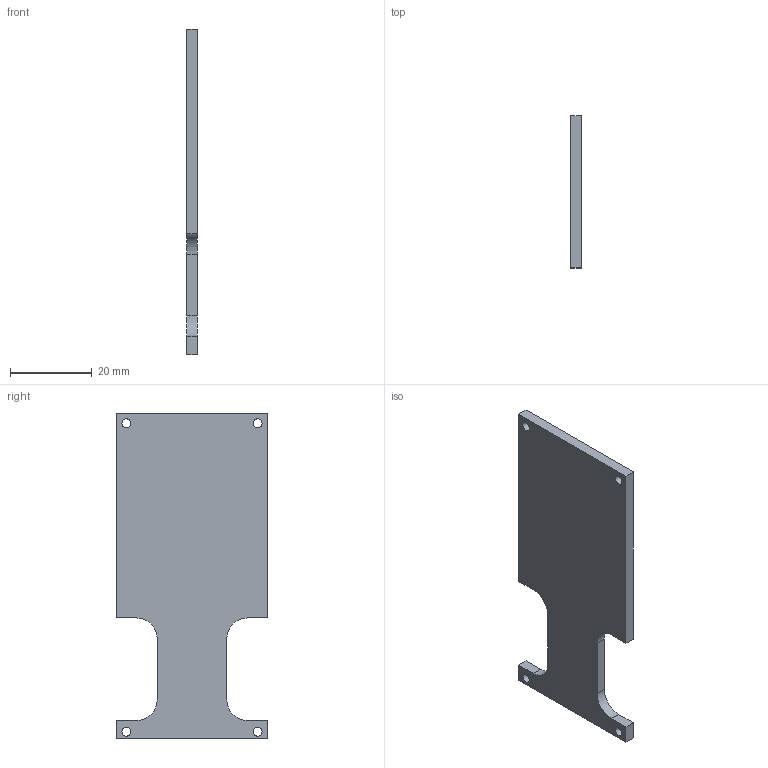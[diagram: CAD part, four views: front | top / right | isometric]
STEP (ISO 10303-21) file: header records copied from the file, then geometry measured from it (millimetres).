
FILE_DESCRIPTION(/* description */ ('STEP AP242','CAx-IF Rec.Pracs.---Representation and Presentation of Product Manufacturing Information (PMI)---4.0---2014-10-13','CAx-IF Rec.Pracs.---3D Tessellated Geometry---0.4---2014-09-14','2;1'),/* implementation_level */ '2;1');
FILE_NAME(/* name */ '6869df15e1723828ff5576de',/* time_stamp */ '2025-07-06T02:27:33Z',/* author */ (''),/* organization */ (''),/* preprocessor_version */ 'ST-DEVELOPER v20',/* originating_system */ 'ONSHAPE BY PTC INC, 1.200',/* authorisation */ ' ');
FILE_SCHEMA (('AP242_MANAGED_MODEL_BASED_3D_ENGINEERING_MIM_LF { 1 0 10303 442 1 1 4 }'));
Length unit declared in the file: metre
Products named in the file (1): Part 1
Bounding box: 2.5 x 37 x 79.5 mm (x, y, z)
Volume: 6119.4 mm3; surface area: 5625.7 mm2
Topology: 1 solids, 1 shells, 22 faces, 60 edges, 40 vertices
Faces by surface type: plane 14, cylinder 8
Full cylindrical faces by diameter (mm): 2.2 x4
Entity records: 718 total; most frequent: CARTESIAN_POINT 119, DIRECTION 118, ORIENTED_EDGE 112, EDGE_CURVE 56, VERTEX_POINT 40, LINE 40, VECTOR 40, AXIS2_PLACEMENT_3D 39
